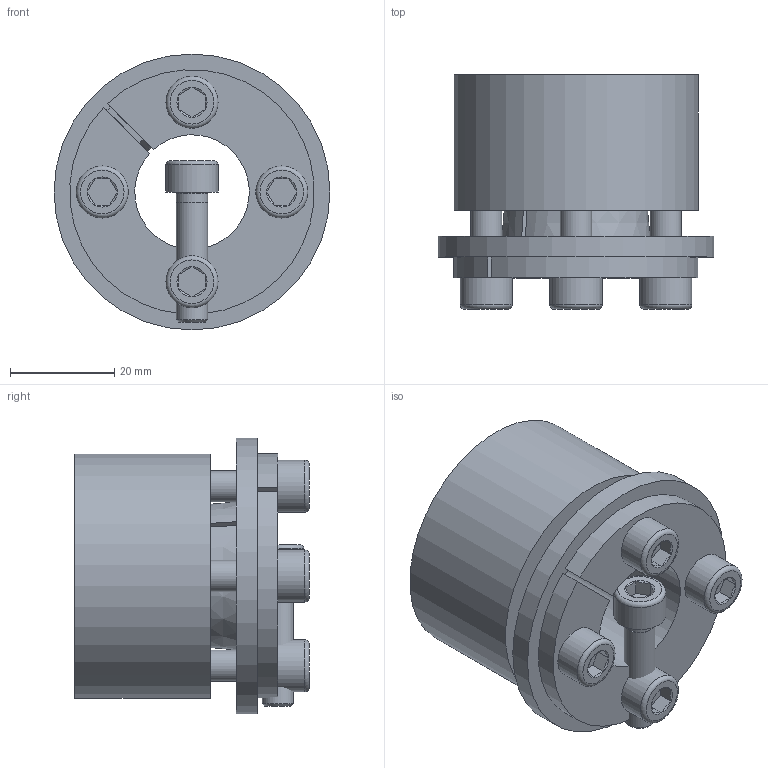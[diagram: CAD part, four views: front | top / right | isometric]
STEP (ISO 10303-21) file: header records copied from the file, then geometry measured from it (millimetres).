
FILE_DESCRIPTION( ( 'Unknown' ), '1' );
FILE_NAME( 'C:/Dokumente und Einstellungen/Sven/Desktop/homepage/cad - homepage/KBS71/KBS 71 - 22 x 47.stp', 'Unknown', ( 'Unknown' ), ( 'Unknown' ), 'XStep 1.0', 'Unknown', ' ' );
FILE_SCHEMA( ( 'automotive_design' ) );
Length unit declared in the file: millimetre
Products named in the file (3): Assem1; KBS 71 - 22 x 47; ISO EN DIN 4762 M6x25
Bounding box: 53 x 45 x 53 mm (x, y, z)
Volume: 94774.5 mm3; surface area: 38515.9 mm2
Topology: 7 solids, 7 shells, 189 faces, 423 edges, 256 vertices
Faces by surface type: plane 92, cylinder 44, cone 43, torus 10
Full cylindrical faces by diameter (mm): 5 x5, 6 x26, 10 x5, 53 x2
Entity records: 1911 total; most frequent: CARTESIAN_POINT 338, DIRECTION 287, ORIENTED_EDGE 240, EDGE_CURVE 120, AXIS2_PLACEMENT_3D 119, EDGE_LOOP 92, VERTEX_POINT 82, FACE_OUTER_BOUND 72
